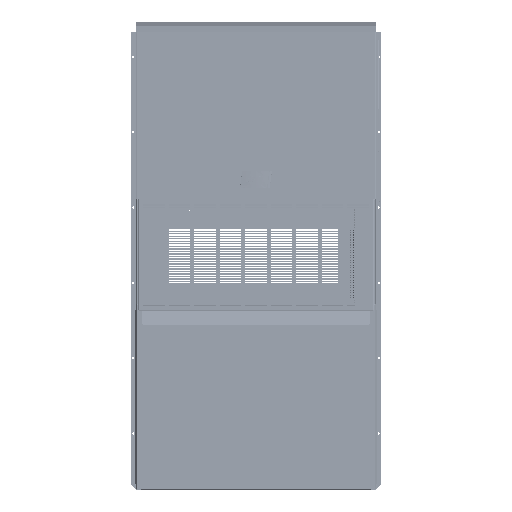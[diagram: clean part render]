
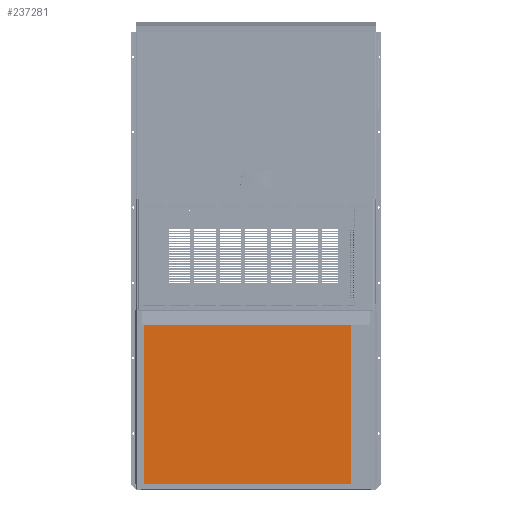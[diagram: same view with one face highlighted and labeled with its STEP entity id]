
A CAD part, top view. The second image highlights one B-rep face of the part: STEP entity #237281.
In plain terms, the highlighted planar face has unit normal (0, 0, 1).
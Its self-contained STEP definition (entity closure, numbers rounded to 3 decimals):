
#7343 = EDGE_CURVE ( 'NONE', #332910, #130905, #275019, .T. ) ;
#11083 = CARTESIAN_POINT ( 'NONE',  ( -16.012, -52.199, 9.225 ) ) ;
#27482 = CARTESIAN_POINT ( 'NONE',  ( -16.012, -24.301, 9.225 ) ) ;
#33150 = ORIENTED_EDGE ( 'NONE', *, *, #7343, .F. ) ;
#33627 = CARTESIAN_POINT ( 'NONE',  ( 16.914, -24.301, 9.225 ) ) ;
#69288 = VERTEX_POINT ( 'NONE', #199981 ) ;
#86740 = DIRECTION ( 'NONE',  ( 0., 0., -1. ) ) ;
#89001 = ORIENTED_EDGE ( 'NONE', *, *, #154448, .F. ) ;
#93883 = CARTESIAN_POINT ( 'NONE',  ( 16.914, -24.301, 9.225 ) ) ;
#108969 = AXIS2_PLACEMENT_3D ( 'NONE', #308171, #86740, #345162 ) ;
#122328 = PLANE ( 'NONE',  #108969 ) ;
#130905 = VERTEX_POINT ( 'NONE', #204523 ) ;
#154448 = EDGE_CURVE ( 'NONE', #69288, #332910, #441745, .T. ) ;
#158430 = VECTOR ( 'NONE', #269600, 39.37 ) ;
#199981 = CARTESIAN_POINT ( 'NONE',  ( 16.914, -52.199, 9.225 ) ) ;
#204523 = CARTESIAN_POINT ( 'NONE',  ( -16.012, -24.301, 9.225 ) ) ;
#232105 = VECTOR ( 'NONE', #242607, 39.37 ) ;
#237281 = ADVANCED_FACE ( 'NONE', ( #304767 ), #122328, .F. ) ;
#242607 = DIRECTION ( 'NONE',  ( 0., -1., 0. ) ) ;
#243695 = LINE ( 'NONE', #93883, #232105 ) ;
#269600 = DIRECTION ( 'NONE',  ( -1., 0., 0. ) ) ;
#275019 = LINE ( 'NONE', #415731, #436709 ) ;
#292553 = VERTEX_POINT ( 'NONE', #33627 ) ;
#304767 = FACE_OUTER_BOUND ( 'NONE', #369957, .T. ) ;
#308171 = CARTESIAN_POINT ( 'NONE',  ( 16.914, -24.301, 9.225 ) ) ;
#322415 = LINE ( 'NONE', #27482, #409141 ) ;
#322995 = DIRECTION ( 'NONE',  ( 1., 0., 0. ) ) ;
#332910 = VERTEX_POINT ( 'NONE', #382031 ) ;
#336596 = DIRECTION ( 'NONE',  ( 0., 1., 0. ) ) ;
#345162 = DIRECTION ( 'NONE',  ( -1., 0., 0. ) ) ;
#363529 = ORIENTED_EDGE ( 'NONE', *, *, #378950, .F. ) ;
#369957 = EDGE_LOOP ( 'NONE', ( #33150, #89001, #404184, #363529 ) ) ;
#378950 = EDGE_CURVE ( 'NONE', #130905, #292553, #322415, .T. ) ;
#382031 = CARTESIAN_POINT ( 'NONE',  ( -16.012, -52.199, 9.225 ) ) ;
#404184 = ORIENTED_EDGE ( 'NONE', *, *, #429787, .F. ) ;
#409141 = VECTOR ( 'NONE', #322995, 39.37 ) ;
#415731 = CARTESIAN_POINT ( 'NONE',  ( -16.012, -24.301, 9.225 ) ) ;
#429787 = EDGE_CURVE ( 'NONE', #292553, #69288, #243695, .T. ) ;
#436709 = VECTOR ( 'NONE', #336596, 39.37 ) ;
#441745 = LINE ( 'NONE', #11083, #158430 ) ;
